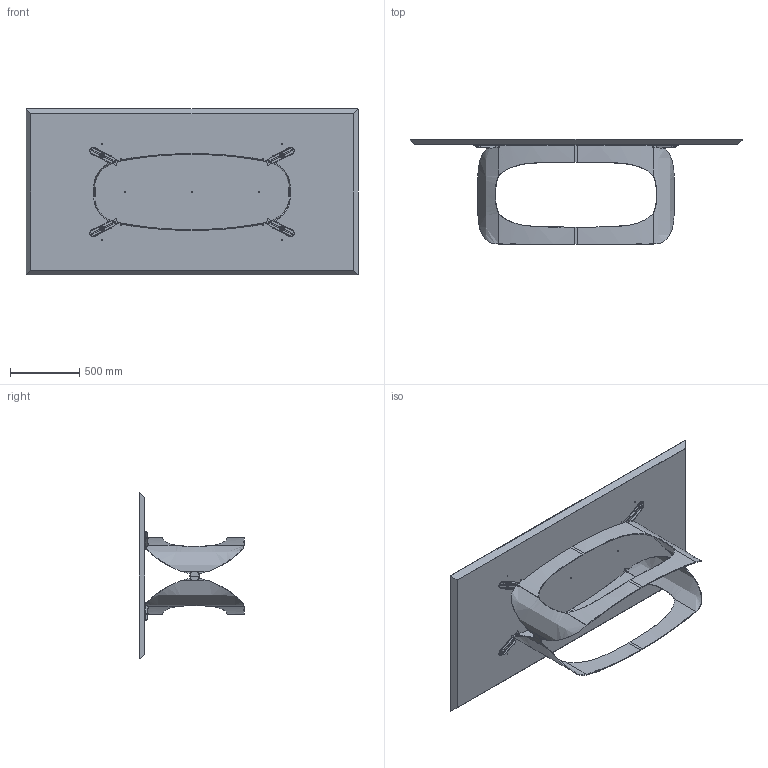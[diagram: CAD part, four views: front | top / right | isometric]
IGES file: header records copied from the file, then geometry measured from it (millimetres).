
Start section: SolidWorks IGES file using analytic representation for surfaces
Global section: file name: Y:\eforma\TECNICO\SOLIDWORKS\E-FORMA\1-TAVOLI\POLIFEMO\02 parts\PO23W.IGS; native system: SolidWorks 2022; preprocessor: SolidWorks 2022; author: eforma.tech; date: 240806.160620; units: millimetre
Bounding box: 2400 x 759.97 x 1200 mm (x, y, z)
Volume: 112501032.8 mm3; surface area: 8544425.2 mm2
Topology: 41 solids, 41 shells, 1358 faces, 3610 edges, 2225 vertices
Faces by surface type: revolution 818, plane 412, bspline 128
